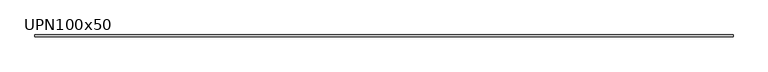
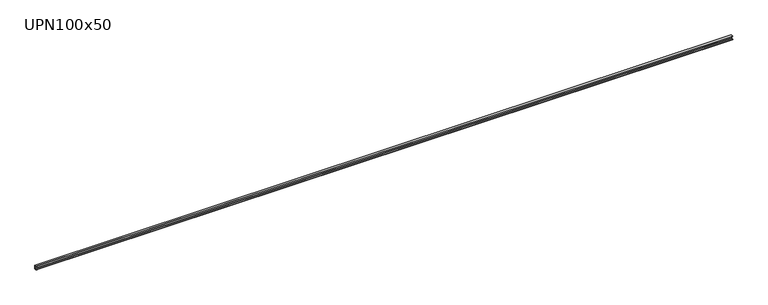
"""IFC4 building model written with IfcOpenShell, lengths in millimetres: beam geometry, M_MC Shapes : UPN100x50."""

import ifcopenshell
import ifcopenshell.guid

model = None  # the IFC model being written
_history = None  # IfcOwnerHistory: only IFC2X3 demands one
_inside = {}  # id of a spatial element -> (the spatial element, [elements in it])
_under = {}  # id of a project, library or spatial element -> (it, [spatial elements below it])
_declared = {}  # id of a project -> (the project, [libraries it declares])
_typed = {}  # id of a type object -> (the type object, [elements of that type])
_made_of = {}  # id of a material, layer set ... -> (it, [elements and type objects made of it])


def new_model(schema):
    """Start an empty IFC model of exactly this schema.

    Asked for "IFC4X3", IfcOpenShell would pick the latest addendum, in which some entities
    have other attributes; the version numbers below select the first issue.
    IFC2X3 requires an IfcOwnerHistory on every rooted entity: one is made here for all.
    """
    global model, _history
    if schema == "IFC4X3":
        model = ifcopenshell.file(schema_version=(4, 3, 0, 0))
    else:
        model = ifcopenshell.file(schema=schema)
    _inside.clear()
    _under.clear()
    _declared.clear()
    _typed.clear()
    _made_of.clear()
    _history = None
    if model.schema == "IFC2X3":
        org = make("IfcOrganization", Name="unknown")
        user = make(
            "IfcPersonAndOrganization",
            ThePerson=make("IfcPerson", FamilyName="unknown"),
            TheOrganization=org,
        )
        app = make(
            "IfcApplication",
            ApplicationDeveloper=org,
            Version="unknown",
            ApplicationFullName="unknown",
            ApplicationIdentifier="unknown",
        )
        _history = make(
            "IfcOwnerHistory",
            OwningUser=user,
            OwningApplication=app,
            ChangeAction="ADDED",
            CreationDate=0,
        )
    return model


def make(cls, **values):
    """One entity of the class cls with the attributes given. An attribute that is None is left unset."""
    return model.create_entity(
        cls, **{name: value for name, value in values.items() if value is not None}
    )


def rooted(cls, **values):
    """An entity with a GlobalId (a new one), such as an element, a storey or a relation."""
    return make(cls, GlobalId=ifcopenshell.guid.new(), OwnerHistory=_history, **values)


def si_unit(unit_type, name, prefix=None):
    """IfcSIUnit, for example si_unit("LENGTHUNIT", "METRE", prefix="MILLI")."""
    return make("IfcSIUnit", UnitType=unit_type, Prefix=prefix, Name=name)


def assignment(units):
    """IfcUnitAssignment: the units of a project."""
    return None if units is None else make("IfcUnitAssignment", Units=units)


def point(xyz):
    """IfcCartesianPoint."""
    return None if xyz is None else make("IfcCartesianPoint", Coordinates=xyz)


def direction(xyz):
    """IfcDirection."""
    return None if xyz is None else make("IfcDirection", DirectionRatios=xyz)


def frame(location, z_axis=None, x_axis=None):
    """IfcAxis2Placement3D, a coordinate frame: its origin and axes. An axis left out is left unset."""
    return make(
        "IfcAxis2Placement3D",
        Location=point(location),
        Axis=direction(z_axis),
        RefDirection=direction(x_axis),
    )


def frame_2d(location, x_axis=None):
    """IfcAxis2Placement2D, a coordinate frame in the plane: its origin and x axis."""
    return make(
        "IfcAxis2Placement2D", Location=point(location), RefDirection=direction(x_axis)
    )


def origin():
    """The frame at (0, 0, 0) with its axes left unset."""
    return frame((0.0, 0.0, 0.0))


def place(relative_to, where):
    """IfcLocalPlacement: puts the frame where relative to a parent placement (None: the world)."""
    return make(
        "IfcLocalPlacement", PlacementRelTo=relative_to, RelativePlacement=where
    )


def context(
    kind, dimensions, precision=None, world=None, true_north=None, identifier=None
):
    """IfcGeometricRepresentationContext, for example the 3D "Model" context."""
    return make(
        "IfcGeometricRepresentationContext",
        ContextIdentifier=identifier,
        ContextType=kind,
        CoordinateSpaceDimension=dimensions,
        Precision=precision,
        WorldCoordinateSystem=world,
        TrueNorth=true_north,
    )


def project(units=None, contexts=None):
    """IfcProject with its units and contexts."""
    return rooted(
        "IfcProject",
        Name="project",
        RepresentationContexts=contexts,
        UnitsInContext=assignment(units),
    )


def spatial(cls, under=None, at=None, **own):
    """A site, building, storey or space (cls), placed at a placement, below another one or the project."""
    s = rooted(cls, ObjectPlacement=at, **own)
    if under is not None:
        _under.setdefault(under.id(), (under, []))[1].append(s)
    return s


def polyline(points):
    """IfcPolyline through the points."""
    return make("IfcPolyline", Points=[point(p) for p in points])


def circle_curve(where, radius):
    """IfcCircle in the frame where."""
    return make("IfcCircle", Position=where, Radius=radius)


def trimmed(basis, trim1, trim2, sense, master):
    """IfcTrimmedCurve: the piece of a basis curve between two trims."""
    return make(
        "IfcTrimmedCurve",
        BasisCurve=basis,
        Trim1=trim1,
        Trim2=trim2,
        SenseAgreement=sense,
        MasterRepresentation=master,
    )


def segment(curve, same_sense, transition):
    """IfcCompositeCurveSegment."""
    return make(
        "IfcCompositeCurveSegment",
        Transition=transition,
        SameSense=same_sense,
        ParentCurve=curve,
    )


def composite_curve(segments, self_intersect=None):
    """IfcCompositeCurve: segments joined end to end."""
    return make("IfcCompositeCurve", Segments=segments, SelfIntersect=self_intersect)


def outline(outer, holes=None, kind="AREA"):
    """IfcArbitraryClosedProfileDef: a profile drawn as a closed curve; with holes, ...WithVoids."""
    if holes is None:
        return make("IfcArbitraryClosedProfileDef", ProfileType=kind, OuterCurve=outer)
    return make(
        "IfcArbitraryProfileDefWithVoids",
        ProfileType=kind,
        OuterCurve=outer,
        InnerCurves=holes,
    )


def extrude(swept, where, along, depth):
    """IfcExtrudedAreaSolid: the profile swept, set in the frame where, extruded along a direction by depth."""
    return make(
        "IfcExtrudedAreaSolid",
        SweptArea=swept,
        Position=where,
        ExtrudedDirection=direction(along),
        Depth=depth,
    )


def shape(context_of_items, identifier, shape_type, items):
    """IfcShapeRepresentation: the items that make up one representation, for example the "Body"."""
    return make(
        "IfcShapeRepresentation",
        ContextOfItems=context_of_items,
        RepresentationIdentifier=identifier,
        RepresentationType=shape_type,
        Items=items,
    )


def source(mapping_origin, context_of_items, identifier, shape_type, items):
    """IfcRepresentationMap: a shape defined once, which mapped items show again and again."""
    return make(
        "IfcRepresentationMap",
        MappingOrigin=mapping_origin,
        MappedRepresentation=shape(context_of_items, identifier, shape_type, items),
    )


def transform(
    local_origin,
    x_axis=None,
    y_axis=None,
    z_axis=None,
    scale=None,
    scale2=None,
    scale3=None,
    uniform=True,
):
    """IfcCartesianTransformationOperator3D, or its non-uniform kind. x_axis, y_axis, z_axis: its Axis1, 2, 3."""
    if uniform:
        return make(
            "IfcCartesianTransformationOperator3D",
            Axis1=direction(x_axis),
            Axis2=direction(y_axis),
            LocalOrigin=point(local_origin),
            Scale=scale,
            Axis3=direction(z_axis),
        )
    return make(
        "IfcCartesianTransformationOperator3DnonUniform",
        Axis1=direction(x_axis),
        Axis2=direction(y_axis),
        LocalOrigin=point(local_origin),
        Scale=scale,
        Axis3=direction(z_axis),
        Scale2=scale2,
        Scale3=scale3,
    )


def mapped(mapping_source, mapping_target):
    """IfcMappedItem: shows the shape of a source again, moved by a transform."""
    return make(
        "IfcMappedItem", MappingSource=mapping_source, MappingTarget=mapping_target
    )


def made_of(thing, what):
    """Note that an element or type object is made of a material, layer set ...; save() writes the relation."""
    if what is not None:
        _made_of.setdefault(what.id(), (what, []))[1].append(thing)
    return thing


def element(
    cls,
    number,
    at=None,
    inside=None,
    cuts=None,
    type_object=None,
    material=None,
    context=None,
    identifier="Body",
    shape_type=None,
    held_by="IfcProductDefinitionShape",
    body=None,
    shapes=None,
    **own,
):
    """One element of the class cls, such as IfcWall. Its Tag is "e" and its number.

    at: its placement. inside: the storey or other place that contains it. cuts: it is an
    opening in that element (IfcRelVoidsElement). A single representation is given by context,
    identifier, shape_type and body (its items); several are given by shapes. held_by: the class
    of the entity that holds the representations. save() writes the other relations.
    """
    e = rooted(cls, Tag="e%d" % number, ObjectPlacement=at, **own)
    if body is not None:
        shapes = [shape(context, identifier, shape_type, body)]
    if shapes is not None:
        e.Representation = make(held_by, Representations=shapes)
    if inside is not None:
        _inside.setdefault(inside.id(), (inside, []))[1].append(e)
    if cuts is not None:
        rooted(
            "IfcRelVoidsElement", RelatingBuildingElement=cuts, RelatedOpeningElement=e
        )
    if type_object is not None:
        _typed.setdefault(type_object.id(), (type_object, []))[1].append(e)
    return made_of(e, material)


def aggregate(whole, parts):
    """IfcRelAggregates: a whole, such as a stair, and the parts it consists of."""
    return rooted("IfcRelAggregates", RelatingObject=whole, RelatedObjects=parts)


def save(model, path):
    """Write the relations noted so far, then the file.

    IfcRelAggregates (storeys below a building ...), IfcRelContainedInSpatialStructure (elements
    in a storey), IfcRelDefinesByType, IfcRelAssociatesMaterial and IfcRelDeclares: one each for
    every whole, place, type object, material and project.
    """
    for whole, parts in _under.values():
        aggregate(whole, parts)
    for where, things in _inside.values():
        rooted(
            "IfcRelContainedInSpatialStructure",
            RelatedElements=things,
            RelatingStructure=where,
        )
    for kind, things in _typed.values():
        rooted("IfcRelDefinesByType", RelatedObjects=things, RelatingType=kind)
    for what, things in _made_of.values():
        rooted("IfcRelAssociatesMaterial", RelatedObjects=things, RelatingMaterial=what)
    for by, libraries in _declared.values():
        rooted("IfcRelDeclares", RelatingContext=by, RelatedDefinitions=libraries)
    model.write(path)


def upn100x50_d6a2ed97(model_context):
    return source(origin(), model_context, "Body", "SweptSolid", [
        extrude(outline(composite_curve([segment(polyline([(10.9, 50.0), (10.9, -50.0), (-39.1, -50.0), (-39.1, -49.0253247)]), True, "CONTINUOUS"), segment(trimmed(circle_curve(frame_2d((-35.15, -49.0253247)), 3.95), [point((-39.1, -49.0253247))], [point((-35.7993773, -45.1290689))], False, "CARTESIAN"), True, "CONTINUOUS"), segment(polyline([(-35.7993773, -45.1290689), (-0.2512455, -39.2043685)]), True, "CONTINUOUS"), segment(trimmed(circle_curve(frame_2d((-1.55, -31.4118569)), 7.9), [point((-0.2512455, -39.2043685))], [point((6.35, -31.4118569))], True, "CARTESIAN"), True, "CONTINUOUS"), segment(polyline([(6.35, -31.4118569), (6.35, 31.4118569)]), True, "CONTINUOUS"), segment(trimmed(circle_curve(frame_2d((-1.55, 31.4118569)), 7.9), [point((6.35, 31.4118569))], [point((-0.2512455, 39.2043685))], True, "CARTESIAN"), True, "CONTINUOUS"), segment(polyline([(-0.2512455, 39.2043685), (-35.7993773, 45.1290689)]), True, "CONTINUOUS"), segment(trimmed(circle_curve(frame_2d((-35.15, 49.0253247)), 3.95), [point((-35.7993773, 45.1290689))], [point((-39.1, 49.0253247))], False, "CARTESIAN"), True, "CONTINUOUS"), segment(polyline([(-39.1, 49.0253247), (-39.1, 50.0), (10.9, 50.0)]), True, "CONTINUOUS")], self_intersect=False)), frame((-9049.95, 0.0, 0.0), z_axis=(1.0, 0.0, 0.0), x_axis=(0.0, 1.0, 0.0)), (0.0, 0.0, 1.0), 18099.9),
    ])


if __name__ == "__main__":
    model = new_model("IFC4")
    model_context = context("Model", 3, world=origin())
    ifc_project = project(units=[si_unit("LENGTHUNIT", "METRE", prefix="MILLI")], contexts=[model_context])
    site = spatial("IfcSite", under=ifc_project)
    building = spatial("IfcBuilding", under=site)
    placement = place(None, origin())
    upn100x50_shape = upn100x50_d6a2ed97(model_context)
    element("IfcBeam", 1, ObjectType="M_MC Shapes : UPN100x50", at=placement, inside=building, context=model_context, shape_type="MappedRepresentation", body=[
        mapped(upn100x50_shape, transform((0.0, 0.0, 0.0), x_axis=(1.0, 0.0, 0.0), y_axis=(0.0, 1.0, 0.0), z_axis=(0.0, 0.0, 1.0))),
    ])
    save(model, "model.ifc")
